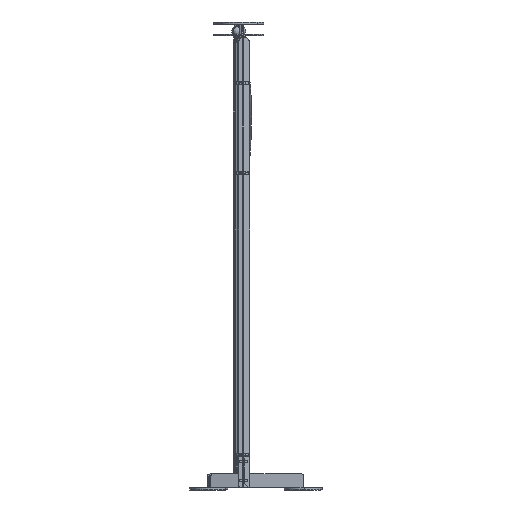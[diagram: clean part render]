
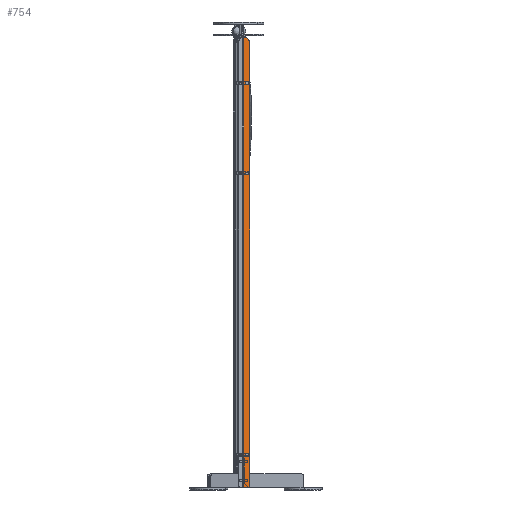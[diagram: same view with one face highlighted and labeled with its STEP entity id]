
A CAD part, left-side view. The second image highlights one B-rep face of the part: STEP entity #754.
In plain terms, the highlighted planar face has unit normal (-0.966, -0.259, 0) as drawn and (-1, 0, 0) by its records, which use the part's own axes.
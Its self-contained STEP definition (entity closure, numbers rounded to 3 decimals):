
#36=FACE_BOUND('',#1304,.T.);
#37=FACE_BOUND('',#1305,.T.);
#38=FACE_BOUND('',#1306,.T.);
#77=(
BOUNDED_CURVE()
B_SPLINE_CURVE(2,(#6837,#6838,#6839),.UNSPECIFIED.,.F.,.F.)
B_SPLINE_CURVE_WITH_KNOTS((3,3),(-23.294,0.),.UNSPECIFIED.)
CURVE()
GEOMETRIC_REPRESENTATION_ITEM()
RATIONAL_B_SPLINE_CURVE((1.,0.713,1.))
REPRESENTATION_ITEM('')
);
#754=ADVANCED_FACE('',(#1026,#36,#37,#38),#4770,.T.);
#1026=FACE_OUTER_BOUND('',#1303,.T.);
#1303=EDGE_LOOP('',(#2024,#2025,#2026,#2027));
#1304=EDGE_LOOP('',(#2028,#2029,#2030,#2031));
#1305=EDGE_LOOP('',(#2032,#2033,#2034,#2035));
#1306=EDGE_LOOP('',(#2036,#2037,#2038,#2039));
#2024=ORIENTED_EDGE('',*,*,#3221,.T.);
#2025=ORIENTED_EDGE('',*,*,#3219,.T.);
#2026=ORIENTED_EDGE('',*,*,#3210,.F.);
#2027=ORIENTED_EDGE('',*,*,#3220,.T.);
#2028=ORIENTED_EDGE('',*,*,#3216,.T.);
#2029=ORIENTED_EDGE('',*,*,#3217,.T.);
#2030=ORIENTED_EDGE('',*,*,#3218,.T.);
#2031=ORIENTED_EDGE('',*,*,#3213,.T.);
#2032=ORIENTED_EDGE('',*,*,#3225,.T.);
#2033=ORIENTED_EDGE('',*,*,#3222,.T.);
#2034=ORIENTED_EDGE('',*,*,#3223,.T.);
#2035=ORIENTED_EDGE('',*,*,#3224,.T.);
#2036=ORIENTED_EDGE('',*,*,#3229,.T.);
#2037=ORIENTED_EDGE('',*,*,#3226,.T.);
#2038=ORIENTED_EDGE('',*,*,#3227,.T.);
#2039=ORIENTED_EDGE('',*,*,#3228,.T.);
#3210=EDGE_CURVE('',#4390,#4391,#77,.T.);
#3213=EDGE_CURVE('',#4393,#4392,#3922,.T.);
#3216=EDGE_CURVE('',#4392,#4394,#3925,.T.);
#3217=EDGE_CURVE('',#4394,#4395,#3926,.T.);
#3218=EDGE_CURVE('',#4395,#4393,#3927,.T.);
#3219=EDGE_CURVE('',#4396,#4391,#3928,.T.);
#3220=EDGE_CURVE('',#4390,#4397,#3929,.T.);
#3221=EDGE_CURVE('',#4397,#4396,#3930,.T.);
#3222=EDGE_CURVE('',#4398,#4399,#3931,.T.);
#3223=EDGE_CURVE('',#4399,#4400,#3932,.T.);
#3224=EDGE_CURVE('',#4400,#4401,#3933,.T.);
#3225=EDGE_CURVE('',#4401,#4398,#3934,.T.);
#3226=EDGE_CURVE('',#4402,#4403,#3935,.T.);
#3227=EDGE_CURVE('',#4403,#4404,#3936,.T.);
#3228=EDGE_CURVE('',#4404,#4405,#3937,.T.);
#3229=EDGE_CURVE('',#4405,#4402,#3938,.T.);
#3922=B_SPLINE_CURVE_WITH_KNOTS('',1,(#6844,#6845),.UNSPECIFIED.,.F.,.F.,
(2,2),(-7.,0.),.UNSPECIFIED.);
#3925=B_SPLINE_CURVE_WITH_KNOTS('',1,(#6850,#6851),.UNSPECIFIED.,.F.,.F.,
(2,2),(-5.2,0.),.UNSPECIFIED.);
#3926=B_SPLINE_CURVE_WITH_KNOTS('',1,(#6852,#6853),.UNSPECIFIED.,.F.,.F.,
(2,2),(-7.,0.),.UNSPECIFIED.);
#3927=B_SPLINE_CURVE_WITH_KNOTS('',1,(#6854,#6855),.UNSPECIFIED.,.F.,.F.,
(2,2),(-5.2,0.),.UNSPECIFIED.);
#3928=B_SPLINE_CURVE_WITH_KNOTS('',1,(#6856,#6857),.UNSPECIFIED.,.F.,.F.,
(2,2),(0.,985.),.UNSPECIFIED.);
#3929=B_SPLINE_CURVE_WITH_KNOTS('',1,(#6858,#6859),.UNSPECIFIED.,.F.,.F.,
(2,2),(-999.998,0.),.UNSPECIFIED.);
#3930=B_SPLINE_CURVE_WITH_KNOTS('',1,(#6860,#6861),.UNSPECIFIED.,.F.,.F.,
(2,2),(0.,14.732),.UNSPECIFIED.);
#3931=B_SPLINE_CURVE_WITH_KNOTS('',1,(#6862,#6863),.UNSPECIFIED.,.F.,.F.,
(2,2),(-5.2,0.),.UNSPECIFIED.);
#3932=B_SPLINE_CURVE_WITH_KNOTS('',1,(#6864,#6865),.UNSPECIFIED.,.F.,.F.,
(2,2),(-7.,0.),.UNSPECIFIED.);
#3933=B_SPLINE_CURVE_WITH_KNOTS('',1,(#6866,#6867),.UNSPECIFIED.,.F.,.F.,
(2,2),(-5.2,0.),.UNSPECIFIED.);
#3934=B_SPLINE_CURVE_WITH_KNOTS('',1,(#6868,#6869),.UNSPECIFIED.,.F.,.F.,
(2,2),(-7.,0.),.UNSPECIFIED.);
#3935=B_SPLINE_CURVE_WITH_KNOTS('',1,(#6870,#6871),.UNSPECIFIED.,.F.,.F.,
(2,2),(0.,7.),.UNSPECIFIED.);
#3936=B_SPLINE_CURVE_WITH_KNOTS('',1,(#6872,#6873),.UNSPECIFIED.,.F.,.F.,
(2,2),(0.,5.2),.UNSPECIFIED.);
#3937=B_SPLINE_CURVE_WITH_KNOTS('',1,(#6874,#6875),.UNSPECIFIED.,.F.,.F.,
(2,2),(0.,7.),.UNSPECIFIED.);
#3938=B_SPLINE_CURVE_WITH_KNOTS('',1,(#6876,#6877),.UNSPECIFIED.,.F.,.F.,
(2,2),(0.,5.2),.UNSPECIFIED.);
#4390=VERTEX_POINT('',#6737);
#4391=VERTEX_POINT('',#6738);
#4392=VERTEX_POINT('',#6739);
#4393=VERTEX_POINT('',#6740);
#4394=VERTEX_POINT('',#6741);
#4395=VERTEX_POINT('',#6742);
#4396=VERTEX_POINT('',#6743);
#4397=VERTEX_POINT('',#6744);
#4398=VERTEX_POINT('',#6745);
#4399=VERTEX_POINT('',#6746);
#4400=VERTEX_POINT('',#6747);
#4401=VERTEX_POINT('',#6748);
#4402=VERTEX_POINT('',#6749);
#4403=VERTEX_POINT('',#6750);
#4404=VERTEX_POINT('',#6751);
#4405=VERTEX_POINT('',#6752);
#4770=PLANE('',#5311);
#5311=AXIS2_PLACEMENT_3D('',#6686,#5643,$);
#5643=DIRECTION('',(-1.,0.,0.));
#6686=CARTESIAN_POINT('',(-1.5,8.705,-600.));
#6737=CARTESIAN_POINT('',(-1.5,7.232,499.998));
#6738=CARTESIAN_POINT('',(-1.5,-7.5,485.));
#6739=CARTESIAN_POINT('',(-1.5,2.5,394.8));
#6740=CARTESIAN_POINT('',(-1.5,-4.5,394.8));
#6741=CARTESIAN_POINT('',(-1.5,2.5,400.));
#6742=CARTESIAN_POINT('',(-1.5,-4.5,400.));
#6743=CARTESIAN_POINT('',(-1.5,-7.5,-500.));
#6744=CARTESIAN_POINT('',(-1.5,7.232,-500.));
#6745=CARTESIAN_POINT('',(-1.5,2.5,-430.2));
#6746=CARTESIAN_POINT('',(-1.5,2.5,-425.));
#6747=CARTESIAN_POINT('',(-1.5,-4.5,-425.));
#6748=CARTESIAN_POINT('',(-1.5,-4.5,-430.2));
#6749=CARTESIAN_POINT('',(-1.5,2.5,200.));
#6750=CARTESIAN_POINT('',(-1.5,-4.5,200.));
#6751=CARTESIAN_POINT('',(-1.5,-4.5,194.8));
#6752=CARTESIAN_POINT('',(-1.5,2.5,194.8));
#6837=CARTESIAN_POINT('',(-1.5,7.232,499.998));
#6838=CARTESIAN_POINT('',(-1.5,-7.5,499.734));
#6839=CARTESIAN_POINT('',(-1.5,-7.5,485.));
#6844=CARTESIAN_POINT('',(-1.5,-4.5,394.8));
#6845=CARTESIAN_POINT('',(-1.5,2.5,394.8));
#6850=CARTESIAN_POINT('',(-1.5,2.5,394.8));
#6851=CARTESIAN_POINT('',(-1.5,2.5,400.));
#6852=CARTESIAN_POINT('',(-1.5,2.5,400.));
#6853=CARTESIAN_POINT('',(-1.5,-4.5,400.));
#6854=CARTESIAN_POINT('',(-1.5,-4.5,400.));
#6855=CARTESIAN_POINT('',(-1.5,-4.5,394.8));
#6856=CARTESIAN_POINT('',(-1.5,-7.5,-500.));
#6857=CARTESIAN_POINT('',(-1.5,-7.5,485.));
#6858=CARTESIAN_POINT('',(-1.5,7.232,499.998));
#6859=CARTESIAN_POINT('',(-1.5,7.232,-500.));
#6860=CARTESIAN_POINT('',(-1.5,7.232,-500.));
#6861=CARTESIAN_POINT('',(-1.5,-7.5,-500.));
#6862=CARTESIAN_POINT('',(-1.5,2.5,-430.2));
#6863=CARTESIAN_POINT('',(-1.5,2.5,-425.));
#6864=CARTESIAN_POINT('',(-1.5,2.5,-425.));
#6865=CARTESIAN_POINT('',(-1.5,-4.5,-425.));
#6866=CARTESIAN_POINT('',(-1.5,-4.5,-425.));
#6867=CARTESIAN_POINT('',(-1.5,-4.5,-430.2));
#6868=CARTESIAN_POINT('',(-1.5,-4.5,-430.2));
#6869=CARTESIAN_POINT('',(-1.5,2.5,-430.2));
#6870=CARTESIAN_POINT('',(-1.5,2.5,200.));
#6871=CARTESIAN_POINT('',(-1.5,-4.5,200.));
#6872=CARTESIAN_POINT('',(-1.5,-4.5,200.));
#6873=CARTESIAN_POINT('',(-1.5,-4.5,194.8));
#6874=CARTESIAN_POINT('',(-1.5,-4.5,194.8));
#6875=CARTESIAN_POINT('',(-1.5,2.5,194.8));
#6876=CARTESIAN_POINT('',(-1.5,2.5,194.8));
#6877=CARTESIAN_POINT('',(-1.5,2.5,200.));
